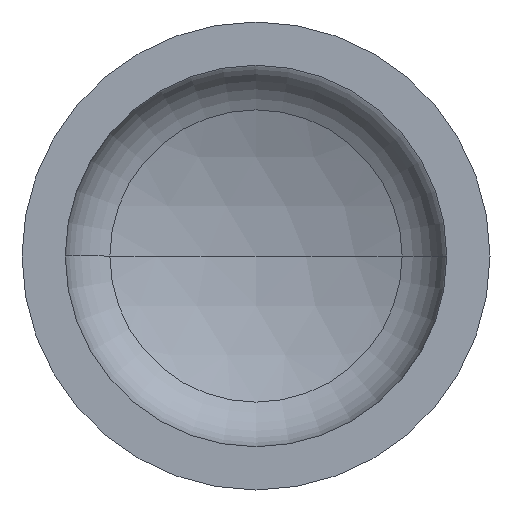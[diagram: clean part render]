
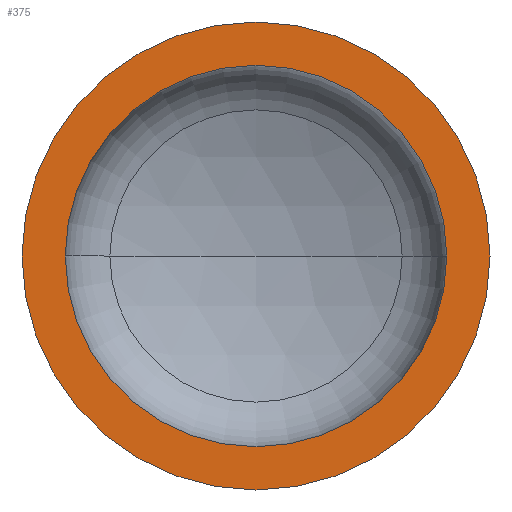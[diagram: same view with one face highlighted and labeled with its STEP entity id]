
A CAD part, front view. The second image highlights one B-rep face of the part: STEP entity #375.
In plain terms, the highlighted planar face has unit normal (0, -1, 0).
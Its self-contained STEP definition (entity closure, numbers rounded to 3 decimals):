
#9 = CIRCLE ( 'NONE', #33, 400. ) ;
#11 = EDGE_LOOP ( 'NONE', ( #115, #52 ) ) ;
#13 = CARTESIAN_POINT ( 'NONE',  ( 0., 0., 0. ) ) ;
#27 = VERTEX_POINT ( 'NONE', #281 ) ;
#31 = DIRECTION ( 'NONE',  ( 0., -1., 0. ) ) ;
#33 = AXIS2_PLACEMENT_3D ( 'NONE', #13, #271, #94 ) ;
#35 = CARTESIAN_POINT ( 'NONE',  ( 0., 0., 0. ) ) ;
#44 = AXIS2_PLACEMENT_3D ( 'NONE', #67, #359, #102 ) ;
#47 = ORIENTED_EDGE ( 'NONE', *, *, #125, .F. ) ;
#52 = ORIENTED_EDGE ( 'NONE', *, *, #123, .T. ) ;
#55 = AXIS2_PLACEMENT_3D ( 'NONE', #35, #31, #56 ) ;
#56 = DIRECTION ( 'NONE',  ( 1., 0., 0. ) ) ;
#60 = CIRCLE ( 'NONE', #55, 326. ) ;
#64 = EDGE_LOOP ( 'NONE', ( #47, #410 ) ) ;
#67 = CARTESIAN_POINT ( 'NONE',  ( -400., 0., 0. ) ) ;
#69 = AXIS2_PLACEMENT_3D ( 'NONE', #189, #191, #301 ) ;
#72 = AXIS2_PLACEMENT_3D ( 'NONE', #313, #292, #290 ) ;
#74 = VERTEX_POINT ( 'NONE', #242 ) ;
#94 = DIRECTION ( 'NONE',  ( 1., 0., 0. ) ) ;
#100 = VERTEX_POINT ( 'NONE', #218 ) ;
#102 = DIRECTION ( 'NONE',  ( -1., 0., 0. ) ) ;
#115 = ORIENTED_EDGE ( 'NONE', *, *, #329, .T. ) ;
#123 = EDGE_CURVE ( 'NONE', #133, #100, #343, .T. ) ;
#125 = EDGE_CURVE ( 'NONE', #27, #74, #266, .T. ) ;
#133 = VERTEX_POINT ( 'NONE', #299 ) ;
#189 = CARTESIAN_POINT ( 'NONE',  ( 0., 0., 0. ) ) ;
#191 = DIRECTION ( 'NONE',  ( 0., -1., 0. ) ) ;
#218 = CARTESIAN_POINT ( 'NONE',  ( 400., 0., 0. ) ) ;
#219 = FACE_BOUND ( 'NONE', #64, .T. ) ;
#242 = CARTESIAN_POINT ( 'NONE',  ( -326., 0., 0. ) ) ;
#266 = CIRCLE ( 'NONE', #69, 326. ) ;
#271 = DIRECTION ( 'NONE',  ( 0., -1., 0. ) ) ;
#272 = FACE_OUTER_BOUND ( 'NONE', #11, .T. ) ;
#281 = CARTESIAN_POINT ( 'NONE',  ( 326., 0., 0. ) ) ;
#290 = DIRECTION ( 'NONE',  ( 1., 0., 0. ) ) ;
#292 = DIRECTION ( 'NONE',  ( 0., -1., 0. ) ) ;
#299 = CARTESIAN_POINT ( 'NONE',  ( -400., 0., 0. ) ) ;
#301 = DIRECTION ( 'NONE',  ( 1., 0., 0. ) ) ;
#311 = EDGE_CURVE ( 'NONE', #74, #27, #60, .T. ) ;
#313 = CARTESIAN_POINT ( 'NONE',  ( 0., 0., 0. ) ) ;
#329 = EDGE_CURVE ( 'NONE', #100, #133, #9, .T. ) ;
#343 = CIRCLE ( 'NONE', #72, 400. ) ;
#359 = DIRECTION ( 'NONE',  ( 0., 1., 0. ) ) ;
#375 = ADVANCED_FACE ( 'NONE', ( #219, #272 ), #388, .F. ) ;
#388 = PLANE ( 'NONE',  #44 ) ;
#410 = ORIENTED_EDGE ( 'NONE', *, *, #311, .F. ) ;
